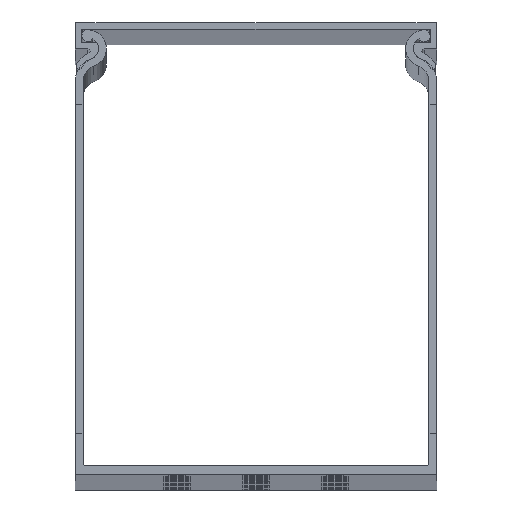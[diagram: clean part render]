
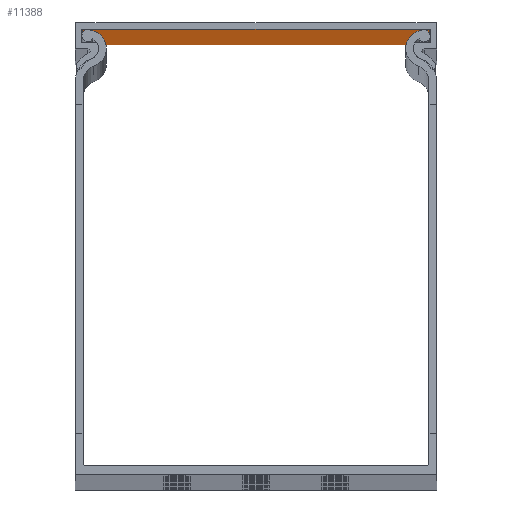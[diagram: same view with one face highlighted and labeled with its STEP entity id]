
A CAD part, top view. The second image highlights one B-rep face of the part: STEP entity #11388.
In plain terms, the highlighted planar face has unit normal (0, -1, 0).
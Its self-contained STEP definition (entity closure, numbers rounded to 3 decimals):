
#1576 = ORIENTED_EDGE ( 'NONE', *, *, #12644, .F. ) ;
#2887 = EDGE_LOOP ( 'NONE', ( #22313, #25317, #1576, #26513 ) ) ;
#4226 = DIRECTION ( 'NONE',  ( 1., 0., 0. ) ) ;
#4526 = VECTOR ( 'NONE', #4226, 1000. ) ;
#5031 = EDGE_CURVE ( 'NONE', #25325, #22837, #9965, .T. ) ;
#6985 = DIRECTION ( 'NONE',  ( 0., 0., 1. ) ) ;
#8601 = CARTESIAN_POINT ( 'NONE',  ( 2568.407, 1295.656, 2000. ) ) ;
#9965 = LINE ( 'NONE', #38388, #36610 ) ;
#11388 = ADVANCED_FACE ( 'NONE', ( #12207 ), #29147, .F. ) ;
#12207 = FACE_OUTER_BOUND ( 'NONE', #2887, .T. ) ;
#12644 = EDGE_CURVE ( 'NONE', #25325, #43149, #47642, .T. ) ;
#13939 = CARTESIAN_POINT ( 'NONE',  ( 2606.807, 1295.656, 2000. ) ) ;
#16218 = DIRECTION ( 'NONE',  ( 0., 0., -1. ) ) ;
#16685 = DIRECTION ( 'NONE',  ( 1., 0., 0. ) ) ;
#19413 = CARTESIAN_POINT ( 'NONE',  ( 2530.007, 1295.656, 0. ) ) ;
#20396 = VECTOR ( 'NONE', #43289, 1000. ) ;
#22313 = ORIENTED_EDGE ( 'NONE', *, *, #27894, .T. ) ;
#22837 = VERTEX_POINT ( 'NONE', #19413 ) ;
#25317 = ORIENTED_EDGE ( 'NONE', *, *, #55302, .F. ) ;
#25325 = VERTEX_POINT ( 'NONE', #48259 ) ;
#26513 = ORIENTED_EDGE ( 'NONE', *, *, #5031, .T. ) ;
#27894 = EDGE_CURVE ( 'NONE', #22837, #41470, #44160, .T. ) ;
#29147 = PLANE ( 'NONE',  #34770 ) ;
#33452 = LINE ( 'NONE', #37976, #20396 ) ;
#34770 = AXIS2_PLACEMENT_3D ( 'NONE', #55039, #51197, #6985 ) ;
#36610 = VECTOR ( 'NONE', #16218, 1000. ) ;
#37976 = CARTESIAN_POINT ( 'NONE',  ( 2606.807, 1295.656, 2000. ) ) ;
#38388 = CARTESIAN_POINT ( 'NONE',  ( 2530.007, 1295.656, 2000. ) ) ;
#41470 = VERTEX_POINT ( 'NONE', #50086 ) ;
#43149 = VERTEX_POINT ( 'NONE', #13939 ) ;
#43289 = DIRECTION ( 'NONE',  ( 0., 0., -1. ) ) ;
#44160 = LINE ( 'NONE', #51312, #49684 ) ;
#47642 = LINE ( 'NONE', #8601, #4526 ) ;
#48259 = CARTESIAN_POINT ( 'NONE',  ( 2530.007, 1295.656, 2000. ) ) ;
#49684 = VECTOR ( 'NONE', #16685, 1000. ) ;
#50086 = CARTESIAN_POINT ( 'NONE',  ( 2606.807, 1295.656, 0. ) ) ;
#51197 = DIRECTION ( 'NONE',  ( 0., 1., 0. ) ) ;
#51312 = CARTESIAN_POINT ( 'NONE',  ( 2568.407, 1295.656, 0. ) ) ;
#55039 = CARTESIAN_POINT ( 'NONE',  ( 2568.407, 1295.656, 2000. ) ) ;
#55302 = EDGE_CURVE ( 'NONE', #43149, #41470, #33452, .T. ) ;
